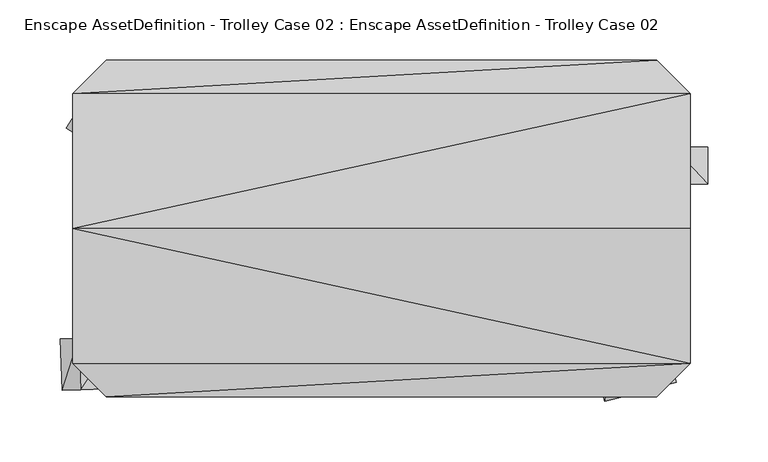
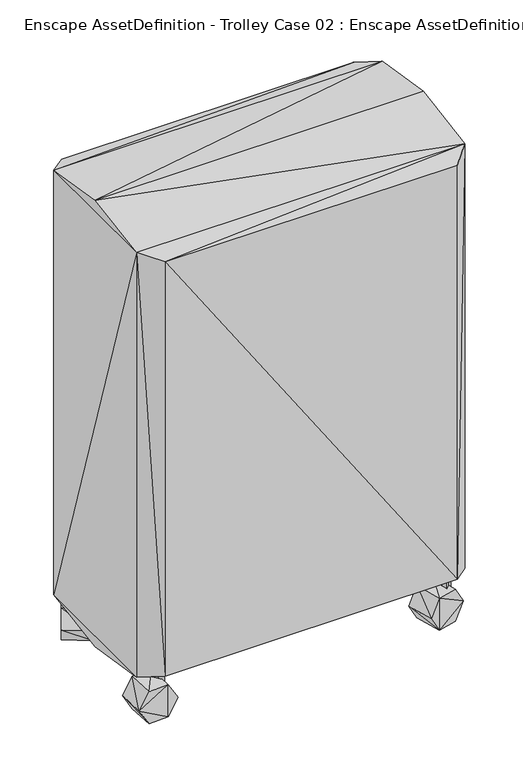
"""IFC4 building model written with IfcOpenShell, lengths in millimetres: geographic element geometry, Enscape AssetDefinition - Trolley Case 02 : Enscape AssetDefinition - Trolley Case 02."""

from ifc_helpers import new_model, si_unit, origin, place, context, project, spatial, faceted_brep, source, transform, mapped, element, save


def enscape_assetdefinition_trolley_case_02_enscape_eeb5b25c(model_context):
    return source(origin(), model_context, "Body", "Brep", [
        faceted_brep([(-260.2800131, -11.5320012, 784.694016), (252.7490258, -123.6490086, 766.6610479), (252.7490258, -11.5320012, 784.694016), (-260.2800131, -123.6490086, 766.6610479), (252.7490258, 100.5850136, 766.6610479), (-232.3970199, -151.5320092, 757.9171062), (224.8670161, -151.5320092, 757.9171062), (252.7490258, 100.5850136, 65.5300021), (252.7490258, -123.6490086, 65.5300021), (224.8670161, -151.5320092, 74.2750019), (-260.2800131, 100.5850136, 766.6610479), (224.8670161, 128.4680068, 757.9171062), (-232.3970199, 128.4680068, 757.9171062), (-260.2800131, 100.5850136, 65.5300021), (-232.3970199, 128.4680068, 74.2750019), (224.8670161, 128.4680068, 74.2750019), (-260.2800131, -123.6490086, 65.5300021), (-260.2800131, -11.5320012, 47.4970043), (252.7490258, -11.5320012, 47.4970043), (-232.3970199, -151.5320092, 74.2750019)], [[[0, 1, 2]], [[1, 0, 3]], [[1, 4, 2]], [[1, 5, 6]], [[5, 1, 3]], [[7, 1, 8]], [[1, 7, 4]], [[9, 1, 6]], [[1, 9, 8]], [[4, 0, 2]], [[0, 4, 10]], [[10, 3, 0]], [[10, 11, 12]], [[11, 10, 4]], [[13, 3, 10]], [[12, 13, 10]], [[14, 11, 15]], [[11, 14, 12]], [[4, 15, 11]], [[13, 12, 14]], [[15, 13, 14]], [[3, 13, 16]], [[7, 17, 13]], [[17, 16, 13]], [[13, 15, 7]], [[15, 4, 7]], [[17, 7, 18]], [[18, 7, 8]], [[17, 8, 16]], [[8, 17, 18]], [[19, 3, 16]], [[8, 19, 16]], [[3, 19, 5]], [[19, 8, 9]], [[9, 5, 19]], [[5, 9, 6]]]),
        faceted_brep([(238.4400219, 25.4960023, 509.3570352), (238.4400219, 56.1220013, 315.1570261), (238.4400219, 25.4960023, 315.1570261), (238.4400219, 56.1220013, 509.3570352), (267.2810256, 56.1220013, 340.0920331), (267.2810256, 56.1220013, 492.0520484), (267.2810256, 25.4960023, 340.0920331), (267.2810256, 25.4960023, 492.0520484)], [[[0, 1, 2]], [[1, 0, 3]], [[4, 2, 1]], [[1, 5, 4]], [[5, 1, 3]], [[6, 0, 2]], [[2, 4, 6]], [[0, 6, 7]], [[7, 3, 0]], [[3, 7, 5]], [[7, 4, 5]], [[4, 7, 6]]]),
        faceted_brep([(185.3740066, -109.9590063, 52.5030047), (185.3740066, -109.9590063, -0.7660001), (170.5200076, -113.9390096, 25.8690026), (229.9340218, -98.0190039, 25.8690026), (215.0810212, -101.9990072, -0.7660001), (196.4400113, -151.2580067, -0.7660001), (226.1470258, -143.2980001, -0.7660001), (181.5870255, -155.2380025, 25.8680023), (215.0810212, -101.9990072, 52.5030047), (196.4400113, -151.2580067, 52.5030047), (241.0010099, -139.3180043, 25.8680023), (226.1470258, -143.2980001, 52.5030047)], [[[0, 1, 2]], [[3, 1, 0]], [[3, 4, 1]], [[5, 2, 1]], [[6, 1, 4]], [[1, 6, 5]], [[7, 0, 2]], [[2, 5, 7]], [[3, 0, 8]], [[9, 8, 0]], [[0, 7, 9]], [[5, 9, 7]], [[5, 10, 9]], [[5, 6, 10]], [[4, 10, 6]], [[10, 4, 3]], [[11, 3, 8]], [[3, 11, 10]], [[8, 9, 11]], [[9, 10, 11]]]),
        faceted_brep([(211.6750032, -119.3000078, 84.0530097), (230.0710082, -124.2300123, 19.5240006), (211.6750032, -119.3000078, 19.5240006), (230.0710082, -124.2300123, 84.0530097), (216.6040242, -137.6970112, 19.5240006), (219.4500118, -127.076, 19.5240006), (216.6040242, -137.6970112, 84.0530097)], [[[0, 1, 2]], [[1, 0, 3]], [[3, 4, 1]], [[5, 2, 1]], [[5, 1, 4]], [[6, 2, 4]], [[2, 6, 0]], [[5, 4, 2]], [[0, 6, 3]], [[4, 3, 6]]]),
        faceted_brep([(182.1800172, 96.9250053, 52.5030047), (182.1800172, 96.9250053, -0.7660001), (169.8740125, 87.7040103, 25.8690026), (219.0980166, 124.5890111, 25.8690026), (206.7920119, 115.3680086, -0.7660001), (208.1810087, 62.2250028, -0.7660001), (232.7930182, 80.667004, -0.7660001), (195.8750039, 53.0040003, 25.8680023), (206.7920119, 115.3680086, 52.5030047), (208.1810087, 62.2250028, 52.5030047), (245.0990081, 89.8880064, 25.8680023), (232.7930182, 80.667004, 52.5030047)], [[[0, 1, 2]], [[3, 1, 0]], [[3, 4, 1]], [[5, 2, 1]], [[6, 1, 4]], [[1, 6, 5]], [[7, 0, 2]], [[2, 5, 7]], [[3, 0, 8]], [[9, 8, 0]], [[0, 7, 9]], [[5, 9, 7]], [[5, 10, 9]], [[5, 6, 10]], [[4, 10, 6]], [[10, 4, 3]], [[11, 3, 8]], [[3, 11, 10]], [[8, 9, 11]], [[9, 10, 11]]]),
        faceted_brep([(212.6560211, 104.9040109, 84.0530097), (231.5660268, 107.1740016, 19.5240006), (212.6560211, 104.9040109, 19.5240006), (231.5660268, 107.1740016, 84.0530097), (224.0770161, 89.6630064, 19.5240006), (222.766012, 100.5810052, 19.5240006), (224.0770161, 89.6630064, 84.0530097)], [[[0, 1, 2]], [[1, 0, 3]], [[3, 4, 1]], [[5, 2, 1]], [[5, 1, 4]], [[6, 2, 4]], [[2, 6, 0]], [[5, 4, 2]], [[0, 6, 3]], [[4, 3, 6]]]),
        faceted_brep([(-223.1190056, -144.4920003, 52.5030047), (-223.1190056, -144.4920003, -0.7660001), (-207.7520192, -143.9430118, 25.8690026), (-269.2230344, -146.1390108, 25.8690026), (-253.8550198, -145.5900073, -0.7660001), (-224.646017, -101.76301, -0.7660001), (-255.3820312, -102.8620005, -0.7660001), (-209.2790157, -101.2140065, 25.8680023), (-253.8550198, -145.5900073, 52.5030047), (-224.646017, -101.76301, 52.5030047), (-270.7490027, -103.4110039, 25.8680023), (-255.3820312, -102.8620005, 52.5030047)], [[[0, 1, 2]], [[3, 1, 0]], [[3, 4, 1]], [[5, 2, 1]], [[6, 1, 4]], [[1, 6, 5]], [[7, 0, 2]], [[2, 5, 7]], [[3, 0, 8]], [[9, 8, 0]], [[0, 7, 9]], [[5, 9, 7]], [[5, 10, 9]], [[5, 6, 10]], [[4, 10, 6]], [[10, 4, 3]], [[11, 3, 8]], [[3, 11, 10]], [[8, 9, 11]], [[9, 10, 11]]]),
        faceted_brep([(-233.4730178, -117.3970103, 84.0530097), (-214.6150172, -114.7270128, 19.5240006), (-233.4730178, -117.3970103, 19.5240006), (-214.6150172, -114.7270128, 84.0530097), (-221.7320204, -132.3930025, 19.5240006), (-223.2730091, -121.506013, 19.5240006), (-221.7320204, -132.3930025, 84.0530097)], [[[0, 1, 2]], [[1, 0, 3]], [[3, 4, 1]], [[5, 2, 1]], [[5, 1, 4]], [[6, 2, 4]], [[2, 6, 0]], [[5, 4, 2]], [[0, 6, 3]], [[4, 3, 6]]]),
        faceted_brep([(-204.9350142, 88.5580033, 52.5030047), (-204.9350142, 88.5580033, -0.7660001), (-196.772024, 101.5900075, 25.8690026), (-229.4240147, 49.4620018, 25.8690026), (-221.2610245, 62.494006, -0.7660001), (-241.1690056, 111.2540066, -0.7660001), (-257.4950159, 85.1910114, -0.7660001), (-233.0060154, 124.2860109, 25.8680023), (-221.2610245, 62.494006, 52.5030047), (-241.1690056, 111.2540066, 52.5030047), (-265.658021, 72.1590072, 25.8680023), (-257.4950159, 85.1910114, 52.5030047)], [[[0, 1, 2]], [[3, 1, 0]], [[3, 4, 1]], [[5, 2, 1]], [[6, 1, 4]], [[1, 6, 5]], [[7, 0, 2]], [[2, 5, 7]], [[3, 0, 8]], [[9, 8, 0]], [[0, 7, 9]], [[5, 9, 7]], [[5, 10, 9]], [[5, 6, 10]], [[4, 10, 6]], [[10, 4, 3]], [[11, 3, 8]], [[3, 11, 10]], [[8, 9, 11]], [[9, 10, 11]]]),
        faceted_brep([(-229.3390185, 90.6010047, 84.0530097), (-226.1950076, 109.3860045, 19.5240006), (-229.3390185, 90.6010047, 19.5240006), (-226.1950076, 109.3860045, 84.0530097), (-211.5000039, 97.2710103, 19.5240006), (-222.3450243, 99.086009, 19.5240006), (-211.5000039, 97.2710103, 84.0530097)], [[[0, 1, 2]], [[1, 0, 3]], [[3, 4, 1]], [[5, 2, 1]], [[5, 1, 4]], [[6, 2, 4]], [[2, 6, 0]], [[5, 4, 2]], [[0, 6, 3]], [[4, 3, 6]]]),
    ])


if __name__ == "__main__":
    model = new_model("IFC4")
    model_context = context("Model", 3, world=origin())
    ifc_project = project(units=[si_unit("LENGTHUNIT", "METRE", prefix="MILLI")], contexts=[model_context])
    site = spatial("IfcSite", under=ifc_project)
    building = spatial("IfcBuilding", under=site)
    placement = place(None, origin())
    enscape_assetdefinition_trolley_case_02_enscape_shape = enscape_assetdefinition_trolley_case_02_enscape_eeb5b25c(model_context)
    element("IfcGeographicElement", 1, ObjectType="Enscape AssetDefinition - Trolley Case 02 : Enscape AssetDefinition - Trolley Case 02", at=placement, inside=building, context=model_context, shape_type="MappedRepresentation", body=[
        mapped(enscape_assetdefinition_trolley_case_02_enscape_shape, transform((0.0, 0.0, 0.0), x_axis=(1.0, 0.0, 0.0), y_axis=(0.0, 1.0, 0.0), z_axis=(0.0, 0.0, 1.0))),
    ])
    save(model, "model.ifc")
